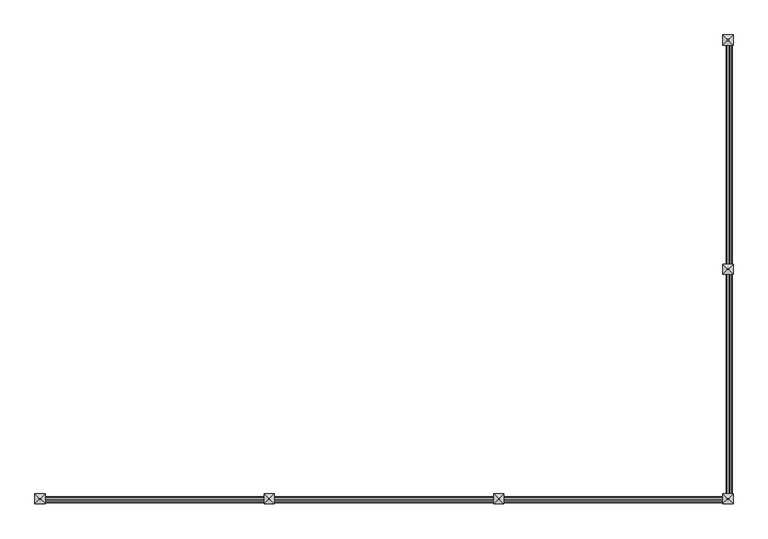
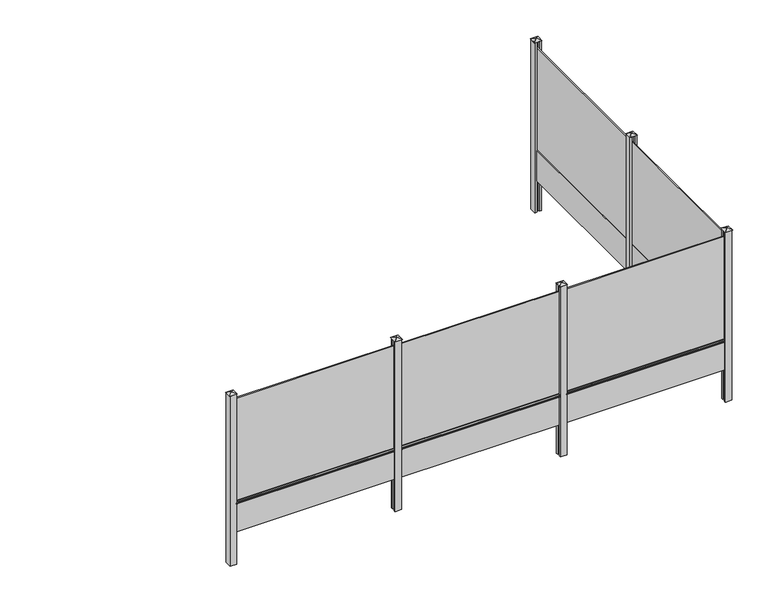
"""IFC4 building model written with IfcOpenShell, lengths in millimetres: railing geometry, Mehat - Railing - Plaque de Soubassement - Classique pour clôture rigide - 247.5x50x4 cm."""

import ifcopenshell
import ifcopenshell.guid

model = None  # the IFC model being written
_history = None  # IfcOwnerHistory: only IFC2X3 demands one
_inside = {}  # id of a spatial element -> (the spatial element, [elements in it])
_under = {}  # id of a project, library or spatial element -> (it, [spatial elements below it])
_declared = {}  # id of a project -> (the project, [libraries it declares])
_typed = {}  # id of a type object -> (the type object, [elements of that type])
_made_of = {}  # id of a material, layer set ... -> (it, [elements and type objects made of it])


def new_model(schema):
    """Start an empty IFC model of exactly this schema.

    Asked for "IFC4X3", IfcOpenShell would pick the latest addendum, in which some entities
    have other attributes; the version numbers below select the first issue.
    IFC2X3 requires an IfcOwnerHistory on every rooted entity: one is made here for all.
    """
    global model, _history
    if schema == "IFC4X3":
        model = ifcopenshell.file(schema_version=(4, 3, 0, 0))
    else:
        model = ifcopenshell.file(schema=schema)
    _inside.clear()
    _under.clear()
    _declared.clear()
    _typed.clear()
    _made_of.clear()
    _history = None
    if model.schema == "IFC2X3":
        org = make("IfcOrganization", Name="unknown")
        user = make(
            "IfcPersonAndOrganization",
            ThePerson=make("IfcPerson", FamilyName="unknown"),
            TheOrganization=org,
        )
        app = make(
            "IfcApplication",
            ApplicationDeveloper=org,
            Version="unknown",
            ApplicationFullName="unknown",
            ApplicationIdentifier="unknown",
        )
        _history = make(
            "IfcOwnerHistory",
            OwningUser=user,
            OwningApplication=app,
            ChangeAction="ADDED",
            CreationDate=0,
        )
    return model


def make(cls, **values):
    """One entity of the class cls with the attributes given. An attribute that is None is left unset."""
    return model.create_entity(
        cls, **{name: value for name, value in values.items() if value is not None}
    )


def rooted(cls, **values):
    """An entity with a GlobalId (a new one), such as an element, a storey or a relation."""
    return make(cls, GlobalId=ifcopenshell.guid.new(), OwnerHistory=_history, **values)


def si_unit(unit_type, name, prefix=None):
    """IfcSIUnit, for example si_unit("LENGTHUNIT", "METRE", prefix="MILLI")."""
    return make("IfcSIUnit", UnitType=unit_type, Prefix=prefix, Name=name)


def assignment(units):
    """IfcUnitAssignment: the units of a project."""
    return None if units is None else make("IfcUnitAssignment", Units=units)


def point(xyz):
    """IfcCartesianPoint."""
    return None if xyz is None else make("IfcCartesianPoint", Coordinates=xyz)


def direction(xyz):
    """IfcDirection."""
    return None if xyz is None else make("IfcDirection", DirectionRatios=xyz)


def frame(location, z_axis=None, x_axis=None):
    """IfcAxis2Placement3D, a coordinate frame: its origin and axes. An axis left out is left unset."""
    return make(
        "IfcAxis2Placement3D",
        Location=point(location),
        Axis=direction(z_axis),
        RefDirection=direction(x_axis),
    )


def frame_2d(location, x_axis=None):
    """IfcAxis2Placement2D, a coordinate frame in the plane: its origin and x axis."""
    return make(
        "IfcAxis2Placement2D", Location=point(location), RefDirection=direction(x_axis)
    )


def origin():
    """The frame at (0, 0, 0) with its axes left unset."""
    return frame((0.0, 0.0, 0.0))


def origin_with_axes():
    """The frame at (0, 0, 0) with the z axis (0, 0, 1) and the x axis (1, 0, 0) written out."""
    return frame((0.0, 0.0, 0.0), z_axis=(0.0, 0.0, 1.0), x_axis=(1.0, 0.0, 0.0))


def place(relative_to, where):
    """IfcLocalPlacement: puts the frame where relative to a parent placement (None: the world)."""
    return make(
        "IfcLocalPlacement", PlacementRelTo=relative_to, RelativePlacement=where
    )


def context(
    kind, dimensions, precision=None, world=None, true_north=None, identifier=None
):
    """IfcGeometricRepresentationContext, for example the 3D "Model" context."""
    return make(
        "IfcGeometricRepresentationContext",
        ContextIdentifier=identifier,
        ContextType=kind,
        CoordinateSpaceDimension=dimensions,
        Precision=precision,
        WorldCoordinateSystem=world,
        TrueNorth=true_north,
    )


def project(units=None, contexts=None):
    """IfcProject with its units and contexts."""
    return rooted(
        "IfcProject",
        Name="project",
        RepresentationContexts=contexts,
        UnitsInContext=assignment(units),
    )


def spatial(cls, under=None, at=None, **own):
    """A site, building, storey or space (cls), placed at a placement, below another one or the project."""
    s = rooted(cls, ObjectPlacement=at, **own)
    if under is not None:
        _under.setdefault(under.id(), (under, []))[1].append(s)
    return s


def polyline(points):
    """IfcPolyline through the points."""
    return make("IfcPolyline", Points=[point(p) for p in points])


def circle_curve(where, radius):
    """IfcCircle in the frame where."""
    return make("IfcCircle", Position=where, Radius=radius)


def trimmed(basis, trim1, trim2, sense, master):
    """IfcTrimmedCurve: the piece of a basis curve between two trims."""
    return make(
        "IfcTrimmedCurve",
        BasisCurve=basis,
        Trim1=trim1,
        Trim2=trim2,
        SenseAgreement=sense,
        MasterRepresentation=master,
    )


def segment(curve, same_sense, transition):
    """IfcCompositeCurveSegment."""
    return make(
        "IfcCompositeCurveSegment",
        Transition=transition,
        SameSense=same_sense,
        ParentCurve=curve,
    )


def composite_curve(segments, self_intersect=None):
    """IfcCompositeCurve: segments joined end to end."""
    return make("IfcCompositeCurve", Segments=segments, SelfIntersect=self_intersect)


def outline(outer, holes=None, kind="AREA"):
    """IfcArbitraryClosedProfileDef: a profile drawn as a closed curve; with holes, ...WithVoids."""
    if holes is None:
        return make("IfcArbitraryClosedProfileDef", ProfileType=kind, OuterCurve=outer)
    return make(
        "IfcArbitraryProfileDefWithVoids",
        ProfileType=kind,
        OuterCurve=outer,
        InnerCurves=holes,
    )


def extrude(swept, where, along, depth):
    """IfcExtrudedAreaSolid: the profile swept, set in the frame where, extruded along a direction by depth."""
    return make(
        "IfcExtrudedAreaSolid",
        SweptArea=swept,
        Position=where,
        ExtrudedDirection=direction(along),
        Depth=depth,
    )


def faces_of(points, faces, orient=None, outer=None):
    """IfcFace entities. A face is a list of loops; a loop is a list of indices into points, from 0.

    orient and outer hold one flag for each loop. By default every Orientation is true, the
    first loop of a face is its IfcFaceOuterBound and the others are IfcFaceBound.
    """
    made = []
    for i, loops in enumerate(faces):
        bounds = []
        for j, loop in enumerate(loops):
            is_outer = j == 0 if outer is None else outer[i][j]
            bounds.append(
                make(
                    "IfcFaceOuterBound" if is_outer else "IfcFaceBound",
                    Bound=make("IfcPolyLoop", Polygon=[points[k] for k in loop]),
                    Orientation=True if orient is None else orient[i][j],
                )
            )
        made.append(make("IfcFace", Bounds=bounds))
    return made


def faceted_brep(points, faces, orient=None, outer=None, voids=None):
    """IfcFacetedBrep: a solid bounded by flat faces; with voids (closed shells), ...WithVoids."""
    shared = [point(p) for p in points]
    hull = make("IfcClosedShell", CfsFaces=faces_of(shared, faces, orient, outer))
    if voids is None:
        return make("IfcFacetedBrep", Outer=hull)
    return make(
        "IfcFacetedBrepWithVoids",
        Outer=hull,
        Voids=[
            make(cls, CfsFaces=faces_of(shared, fs, o, b)) for cls, fs, o, b in voids
        ],
    )


def shape(context_of_items, identifier, shape_type, items):
    """IfcShapeRepresentation: the items that make up one representation, for example the "Body"."""
    return make(
        "IfcShapeRepresentation",
        ContextOfItems=context_of_items,
        RepresentationIdentifier=identifier,
        RepresentationType=shape_type,
        Items=items,
    )


def source(mapping_origin, context_of_items, identifier, shape_type, items):
    """IfcRepresentationMap: a shape defined once, which mapped items show again and again."""
    return make(
        "IfcRepresentationMap",
        MappingOrigin=mapping_origin,
        MappedRepresentation=shape(context_of_items, identifier, shape_type, items),
    )


def transform(
    local_origin,
    x_axis=None,
    y_axis=None,
    z_axis=None,
    scale=None,
    scale2=None,
    scale3=None,
    uniform=True,
):
    """IfcCartesianTransformationOperator3D, or its non-uniform kind. x_axis, y_axis, z_axis: its Axis1, 2, 3."""
    if uniform:
        return make(
            "IfcCartesianTransformationOperator3D",
            Axis1=direction(x_axis),
            Axis2=direction(y_axis),
            LocalOrigin=point(local_origin),
            Scale=scale,
            Axis3=direction(z_axis),
        )
    return make(
        "IfcCartesianTransformationOperator3DnonUniform",
        Axis1=direction(x_axis),
        Axis2=direction(y_axis),
        LocalOrigin=point(local_origin),
        Scale=scale,
        Axis3=direction(z_axis),
        Scale2=scale2,
        Scale3=scale3,
    )


def mapped(mapping_source, mapping_target):
    """IfcMappedItem: shows the shape of a source again, moved by a transform."""
    return make(
        "IfcMappedItem", MappingSource=mapping_source, MappingTarget=mapping_target
    )


def made_of(thing, what):
    """Note that an element or type object is made of a material, layer set ...; save() writes the relation."""
    if what is not None:
        _made_of.setdefault(what.id(), (what, []))[1].append(thing)
    return thing


def element(
    cls,
    number,
    at=None,
    inside=None,
    cuts=None,
    type_object=None,
    material=None,
    context=None,
    identifier="Body",
    shape_type=None,
    held_by="IfcProductDefinitionShape",
    body=None,
    shapes=None,
    **own,
):
    """One element of the class cls, such as IfcWall. Its Tag is "e" and its number.

    at: its placement. inside: the storey or other place that contains it. cuts: it is an
    opening in that element (IfcRelVoidsElement). A single representation is given by context,
    identifier, shape_type and body (its items); several are given by shapes. held_by: the class
    of the entity that holds the representations. save() writes the other relations.
    """
    e = rooted(cls, Tag="e%d" % number, ObjectPlacement=at, **own)
    if body is not None:
        shapes = [shape(context, identifier, shape_type, body)]
    if shapes is not None:
        e.Representation = make(held_by, Representations=shapes)
    if inside is not None:
        _inside.setdefault(inside.id(), (inside, []))[1].append(e)
    if cuts is not None:
        rooted(
            "IfcRelVoidsElement", RelatingBuildingElement=cuts, RelatedOpeningElement=e
        )
    if type_object is not None:
        _typed.setdefault(type_object.id(), (type_object, []))[1].append(e)
    return made_of(e, material)


def aggregate(whole, parts):
    """IfcRelAggregates: a whole, such as a stair, and the parts it consists of."""
    return rooted("IfcRelAggregates", RelatingObject=whole, RelatedObjects=parts)


def save(model, path):
    """Write the relations noted so far, then the file.

    IfcRelAggregates (storeys below a building ...), IfcRelContainedInSpatialStructure (elements
    in a storey), IfcRelDefinesByType, IfcRelAssociatesMaterial and IfcRelDeclares: one each for
    every whole, place, type object, material and project.
    """
    for whole, parts in _under.values():
        aggregate(whole, parts)
    for where, things in _inside.values():
        rooted(
            "IfcRelContainedInSpatialStructure",
            RelatedElements=things,
            RelatingStructure=where,
        )
    for kind, things in _typed.values():
        rooted("IfcRelDefinesByType", RelatedObjects=things, RelatingType=kind)
    for what, things in _made_of.values():
        rooted("IfcRelAssociatesMaterial", RelatedObjects=things, RelatingMaterial=what)
    for by, libraries in _declared.values():
        rooted("IfcRelDeclares", RelatingContext=by, RelatedDefinitions=libraries)
    model.write(path)


def railing_f03016a0(model_context):
    return source(origin(), model_context, "Body", "SolidModel", [
        extrude(outline(polyline([(37896.2516516, -10852.4943936), (37879.2516516, -10852.4943936), (37879.2516516, -8377.4943936), (37896.2516516, -8377.4943936), (37896.2516516, -10852.4943936)])), frame((0.0, 0.0, 500.0), z_axis=(0.0, 0.0, 1.0), x_axis=(1.0, 0.0, 0.0)), (0.0, 0.0, 1.0), 1650.0),
        extrude(outline(polyline([(37907.7516516, -10852.4943936), (37867.7516516, -10852.4943936), (37867.7516516, -8377.4943936), (37907.7516516, -8377.4943936), (37907.7516516, -10852.4943936)])), origin_with_axes(), (0.0, 0.0, 1.0), 500.0),
        extrude(outline(composite_curve([segment(polyline([(460.0, 37907.7516516), (467.1937129, 37929.3327905)]), True, "CONTINUOUS"), segment(trimmed(circle_curve(frame_2d((471.9371294, 37927.7516516)), 5.0), [point((467.1937129, 37929.3327905))], [point((471.9371294, 37932.7516516))], False, "CARTESIAN"), True, "CONTINUOUS"), segment(polyline([(471.9371294, 37932.7516516), (488.0628706, 37932.7516516)]), True, "CONTINUOUS"), segment(trimmed(circle_curve(frame_2d((488.0628706, 37927.7516516)), 5.0), [point((488.0628706, 37932.7516516))], [point((492.8062871, 37929.3327905))], False, "CARTESIAN"), True, "CONTINUOUS"), segment(polyline([(492.8062871, 37929.3327905), (500.0, 37907.7516516), (460.0, 37907.7516516)]), True, "CONTINUOUS")], self_intersect=False)), frame((0.0, -10827.4943936, 0.0), z_axis=(0.0, 1.0, 0.0), x_axis=(0.0, 0.0, 1.0)), (0.0, 0.0, 1.0), 2425.0),
        extrude(outline(polyline([(37937.7516516, -10927.4943936), (37907.7516516, -10927.4943936), (37907.7516516, -10902.4943936), (37867.7516516, -10902.4943936), (37867.7516516, -10927.4943936), (37837.7516516, -10927.4943936), (37837.7516516, -10827.4943936), (37867.7516516, -10827.4943936), (37867.7516516, -10852.4943936), (37907.7516516, -10852.4943936), (37907.7516516, -10827.4943936), (37937.7516516, -10827.4943936), (37937.7516516, -10927.4943936)])), frame((0.0, 0.0, -500.0), z_axis=(0.0, 0.0, 1.0), x_axis=(1.0, 0.0, 0.0)), (0.0, 0.0, 1.0), 2750.0),
        faceted_brep([(37881.3471055, -10871.1443936, 2275.4), (37881.3471055, -10883.8443936, 2275.4), (37894.0471055, -10883.8443936, 2275.4), (37894.0471055, -10871.1443936, 2275.4), (37831.4016516, -10821.1443936, 2250.0), (37944.1016516, -10821.1443936, 2250.0), (37944.1016516, -10933.8443936, 2250.0), (37831.4016516, -10933.8443936, 2250.0)], [[[0, 1, 2, 3]], [[4, 5, 6, 7]], [[4, 0, 3, 5]], [[5, 3, 2, 6]], [[6, 2, 1, 7]], [[7, 1, 0, 4]]]),
        extrude(outline(polyline([(37896.2516516, -13377.4943936), (37879.2516516, -13377.4943936), (37879.2516516, -10902.4943936), (37896.2516516, -10902.4943936), (37896.2516516, -13377.4943936)])), frame((0.0, 0.0, 500.0), z_axis=(0.0, 0.0, 1.0), x_axis=(1.0, 0.0, 0.0)), (0.0, 0.0, 1.0), 1650.0),
        extrude(outline(polyline([(37907.7516516, -13377.4943936), (37867.7516516, -13377.4943936), (37867.7516516, -10902.4943936), (37907.7516516, -10902.4943936), (37907.7516516, -13377.4943936)])), origin_with_axes(), (0.0, 0.0, 1.0), 500.0),
        extrude(outline(composite_curve([segment(polyline([(460.0, 37907.7516516), (467.1937129, 37929.3327905)]), True, "CONTINUOUS"), segment(trimmed(circle_curve(frame_2d((471.9371294, 37927.7516516)), 5.0), [point((467.1937129, 37929.3327905))], [point((471.9371294, 37932.7516516))], False, "CARTESIAN"), True, "CONTINUOUS"), segment(polyline([(471.9371294, 37932.7516516), (488.0628706, 37932.7516516)]), True, "CONTINUOUS"), segment(trimmed(circle_curve(frame_2d((488.0628706, 37927.7516516)), 5.0), [point((488.0628706, 37932.7516516))], [point((492.8062871, 37929.3327905))], False, "CARTESIAN"), True, "CONTINUOUS"), segment(polyline([(492.8062871, 37929.3327905), (500.0, 37907.7516516), (460.0, 37907.7516516)]), True, "CONTINUOUS")], self_intersect=False)), frame((0.0, -13352.4943936, 0.0), z_axis=(0.0, 1.0, 0.0), x_axis=(0.0, 0.0, 1.0)), (0.0, 0.0, 1.0), 2425.0),
        extrude(outline(polyline([(35387.7516516, -13410.9943936), (35387.7516516, -13393.9943936), (37862.7516516, -13393.9943936), (37862.7516516, -13410.9943936), (35387.7516516, -13410.9943936)])), frame((0.0, 0.0, 500.0), z_axis=(0.0, 0.0, 1.0), x_axis=(1.0, 0.0, 0.0)), (0.0, 0.0, 1.0), 1650.0),
        extrude(outline(polyline([(35387.7516516, -13422.4943936), (35387.7516516, -13382.4943936), (37862.7516516, -13382.4943936), (37862.7516516, -13422.4943936), (35387.7516516, -13422.4943936)])), origin_with_axes(), (0.0, 0.0, 1.0), 500.0),
        extrude(outline(composite_curve([segment(polyline([(-13422.4943936, 460.0), (-13444.0755325, 467.1937129)]), True, "CONTINUOUS"), segment(trimmed(circle_curve(frame_2d((-13442.4943936, 471.9371294)), 5.0), [point((-13444.0755325, 467.1937129))], [point((-13447.4943936, 471.9371294))], False, "CARTESIAN"), True, "CONTINUOUS"), segment(polyline([(-13447.4943936, 471.9371294), (-13447.4943936, 488.0628706)]), True, "CONTINUOUS"), segment(trimmed(circle_curve(frame_2d((-13442.4943936, 488.0628706)), 5.0), [point((-13447.4943936, 488.0628706))], [point((-13444.0755325, 492.8062871))], False, "CARTESIAN"), True, "CONTINUOUS"), segment(polyline([(-13444.0755325, 492.8062871), (-13422.4943936, 500.0), (-13422.4943936, 460.0)]), True, "CONTINUOUS")], self_intersect=False)), frame((35412.7516516, 0.0, 0.0), z_axis=(1.0, 0.0, 0.0), x_axis=(0.0, 1.0, 0.0)), (0.0, 0.0, 1.0), 2425.0),
        extrude(outline(polyline([(35312.7516516, -13452.4943936), (35312.7516516, -13422.4943936), (35337.7516516, -13422.4943936), (35337.7516516, -13382.4943936), (35312.7516516, -13382.4943936), (35312.7516516, -13352.4943936), (35412.7516516, -13352.4943936), (35412.7516516, -13382.4943936), (35387.7516516, -13382.4943936), (35387.7516516, -13422.4943936), (35412.7516516, -13422.4943936), (35412.7516516, -13452.4943936), (35312.7516516, -13452.4943936)])), frame((0.0, 0.0, -500.0), z_axis=(0.0, 0.0, 1.0), x_axis=(1.0, 0.0, 0.0)), (0.0, 0.0, 1.0), 2750.0),
        faceted_brep([(35369.1016516, -13396.0898475, 2275.4), (35356.4016516, -13396.0898475, 2275.4), (35356.4016516, -13408.7898475, 2275.4), (35369.1016516, -13408.7898475, 2275.4), (35419.1016516, -13346.1443936, 2250.0), (35419.1016516, -13458.8443936, 2250.0), (35306.4016516, -13458.8443936, 2250.0), (35306.4016516, -13346.1443936, 2250.0)], [[[0, 1, 2, 3]], [[4, 5, 6, 7]], [[4, 0, 3, 5]], [[5, 3, 2, 6]], [[6, 2, 1, 7]], [[7, 1, 0, 4]]]),
        extrude(outline(polyline([(32862.7516516, -13410.9943936), (32862.7516516, -13393.9943936), (35337.7516516, -13393.9943936), (35337.7516516, -13410.9943936), (32862.7516516, -13410.9943936)])), frame((0.0, 0.0, 500.0), z_axis=(0.0, 0.0, 1.0), x_axis=(1.0, 0.0, 0.0)), (0.0, 0.0, 1.0), 1650.0),
        extrude(outline(polyline([(32862.7516516, -13422.4943936), (32862.7516516, -13382.4943936), (35337.7516516, -13382.4943936), (35337.7516516, -13422.4943936), (32862.7516516, -13422.4943936)])), origin_with_axes(), (0.0, 0.0, 1.0), 500.0),
        extrude(outline(composite_curve([segment(polyline([(-13422.4943936, 460.0), (-13444.0755325, 467.1937129)]), True, "CONTINUOUS"), segment(trimmed(circle_curve(frame_2d((-13442.4943936, 471.9371294)), 5.0), [point((-13444.0755325, 467.1937129))], [point((-13447.4943936, 471.9371294))], False, "CARTESIAN"), True, "CONTINUOUS"), segment(polyline([(-13447.4943936, 471.9371294), (-13447.4943936, 488.0628706)]), True, "CONTINUOUS"), segment(trimmed(circle_curve(frame_2d((-13442.4943936, 488.0628706)), 5.0), [point((-13447.4943936, 488.0628706))], [point((-13444.0755325, 492.8062871))], False, "CARTESIAN"), True, "CONTINUOUS"), segment(polyline([(-13444.0755325, 492.8062871), (-13422.4943936, 500.0), (-13422.4943936, 460.0)]), True, "CONTINUOUS")], self_intersect=False)), frame((32887.7516516, 0.0, 0.0), z_axis=(1.0, 0.0, 0.0), x_axis=(0.0, 1.0, 0.0)), (0.0, 0.0, 1.0), 2425.0),
        extrude(outline(polyline([(32787.7516516, -13452.4943936), (32787.7516516, -13422.4943936), (32812.7516516, -13422.4943936), (32812.7516516, -13382.4943936), (32787.7516516, -13382.4943936), (32787.7516516, -13352.4943936), (32887.7516516, -13352.4943936), (32887.7516516, -13382.4943936), (32862.7516516, -13382.4943936), (32862.7516516, -13422.4943936), (32887.7516516, -13422.4943936), (32887.7516516, -13452.4943936), (32787.7516516, -13452.4943936)])), frame((0.0, 0.0, -500.0), z_axis=(0.0, 0.0, 1.0), x_axis=(1.0, 0.0, 0.0)), (0.0, 0.0, 1.0), 2750.0),
        faceted_brep([(32844.1016516, -13396.0898475, 2275.4), (32831.4016516, -13396.0898475, 2275.4), (32831.4016516, -13408.7898475, 2275.4), (32844.1016516, -13408.7898475, 2275.4), (32894.1016516, -13346.1443936, 2250.0), (32894.1016516, -13458.8443936, 2250.0), (32781.4016516, -13458.8443936, 2250.0), (32781.4016516, -13346.1443936, 2250.0)], [[[0, 1, 2, 3]], [[4, 5, 6, 7]], [[4, 0, 3, 5]], [[5, 3, 2, 6]], [[6, 2, 1, 7]], [[7, 1, 0, 4]]]),
        extrude(outline(polyline([(30337.7516516, -13410.9943936), (30337.7516516, -13393.9943936), (32812.7516516, -13393.9943936), (32812.7516516, -13410.9943936), (30337.7516516, -13410.9943936)])), frame((0.0, 0.0, 500.0), z_axis=(0.0, 0.0, 1.0), x_axis=(1.0, 0.0, 0.0)), (0.0, 0.0, 1.0), 1650.0),
        extrude(outline(polyline([(30337.7516516, -13422.4943936), (30337.7516516, -13382.4943936), (32812.7516516, -13382.4943936), (32812.7516516, -13422.4943936), (30337.7516516, -13422.4943936)])), origin_with_axes(), (0.0, 0.0, 1.0), 500.0),
        extrude(outline(composite_curve([segment(polyline([(-13422.4943936, 460.0), (-13444.0755325, 467.1937129)]), True, "CONTINUOUS"), segment(trimmed(circle_curve(frame_2d((-13442.4943936, 471.9371294)), 5.0), [point((-13444.0755325, 467.1937129))], [point((-13447.4943936, 471.9371294))], False, "CARTESIAN"), True, "CONTINUOUS"), segment(polyline([(-13447.4943936, 471.9371294), (-13447.4943936, 488.0628706)]), True, "CONTINUOUS"), segment(trimmed(circle_curve(frame_2d((-13442.4943936, 488.0628706)), 5.0), [point((-13447.4943936, 488.0628706))], [point((-13444.0755325, 492.8062871))], False, "CARTESIAN"), True, "CONTINUOUS"), segment(polyline([(-13444.0755325, 492.8062871), (-13422.4943936, 500.0), (-13422.4943936, 460.0)]), True, "CONTINUOUS")], self_intersect=False)), frame((30362.7516516, 0.0, 0.0), z_axis=(1.0, 0.0, 0.0), x_axis=(0.0, 1.0, 0.0)), (0.0, 0.0, 1.0), 2425.0),
        extrude(outline(polyline([(37837.7516516, -13452.4943936), (37837.7516516, -13422.4943936), (37862.7516516, -13422.4943936), (37862.7516516, -13382.4943936), (37837.7516516, -13382.4943936), (37837.7516516, -13352.4943936), (37867.7516516, -13352.4943936), (37867.7516516, -13377.4943936), (37907.7516516, -13377.4943936), (37907.7516516, -13352.4943936), (37937.7516516, -13352.4943936), (37937.7516516, -13452.4943936), (37837.7516516, -13452.4943936)])), frame((0.0, 0.0, -500.0), z_axis=(0.0, 0.0, 1.0), x_axis=(1.0, 0.0, 0.0)), (0.0, 0.0, 1.0), 2750.0),
        faceted_brep([(37894.1016516, -13396.0898475, 2275.4), (37881.4016516, -13396.0898475, 2275.4), (37881.4016516, -13408.7898475, 2275.4), (37894.1016516, -13408.7898475, 2275.4), (37944.1016516, -13346.1443936, 2250.0), (37944.1016516, -13458.8443936, 2250.0), (37831.4016516, -13458.8443936, 2250.0), (37831.4016516, -13346.1443936, 2250.0)], [[[0, 1, 2, 3]], [[4, 5, 6, 7]], [[4, 0, 3, 5]], [[5, 3, 2, 6]], [[6, 2, 1, 7]], [[7, 1, 0, 4]]]),
        extrude(outline(polyline([(37937.7516516, -8402.4943936), (37907.7516516, -8402.4943936), (37907.7516516, -8377.4943936), (37867.7516516, -8377.4943936), (37867.7516516, -8402.4943936), (37837.7516516, -8402.4943936), (37837.7516516, -8302.4943936), (37937.7516516, -8302.4943936), (37937.7516516, -8402.4943936)])), frame((0.0, 0.0, -500.0), z_axis=(0.0, 0.0, 1.0), x_axis=(1.0, 0.0, 0.0)), (0.0, 0.0, 1.0), 2750.0),
        faceted_brep([(37881.3471055, -8346.1443936, 2275.4), (37881.3471055, -8358.8443936, 2275.4), (37894.0471055, -8358.8443936, 2275.4), (37894.0471055, -8346.1443936, 2275.4), (37831.4016516, -8296.1443936, 2250.0), (37944.1016516, -8296.1443936, 2250.0), (37944.1016516, -8408.8443936, 2250.0), (37831.4016516, -8408.8443936, 2250.0)], [[[0, 1, 2, 3]], [[4, 5, 6, 7]], [[4, 0, 3, 5]], [[5, 3, 2, 6]], [[6, 2, 1, 7]], [[7, 1, 0, 4]]]),
        extrude(outline(polyline([(30262.7516516, -13452.4943936), (30262.7516516, -13352.4943936), (30362.7516516, -13352.4943936), (30362.7516516, -13382.4943936), (30337.7516516, -13382.4943936), (30337.7516516, -13422.4943936), (30362.7516516, -13422.4943936), (30362.7516516, -13452.4943936), (30262.7516516, -13452.4943936)])), frame((0.0, 0.0, -500.0), z_axis=(0.0, 0.0, 1.0), x_axis=(1.0, 0.0, 0.0)), (0.0, 0.0, 1.0), 2750.0),
        faceted_brep([(30319.1016516, -13396.0898475, 2275.4), (30306.4016516, -13396.0898475, 2275.4), (30306.4016516, -13408.7898475, 2275.4), (30319.1016516, -13408.7898475, 2275.4), (30369.1016516, -13346.1443936, 2250.0), (30369.1016516, -13458.8443936, 2250.0), (30256.4016516, -13458.8443936, 2250.0), (30256.4016516, -13346.1443936, 2250.0)], [[[0, 1, 2, 3]], [[4, 5, 6, 7]], [[4, 0, 3, 5]], [[5, 3, 2, 6]], [[6, 2, 1, 7]], [[7, 1, 0, 4]]]),
    ])


if __name__ == "__main__":
    model = new_model("IFC4")
    model_context = context("Model", 3, world=origin())
    ifc_project = project(units=[si_unit("LENGTHUNIT", "METRE", prefix="MILLI")], contexts=[model_context])
    site = spatial("IfcSite", under=ifc_project)
    building = spatial("IfcBuilding", under=site)
    placement = place(None, origin())
    railing_shape = railing_f03016a0(model_context)
    element("IfcRailing", 1, ObjectType="Mehat - Railing - Plaque de Soubassement - Classique pour clôture rigide - 247.5x50x4 cm", at=placement, inside=building, context=model_context, shape_type="MappedRepresentation", body=[
        mapped(railing_shape, transform((0.0, 0.0, 0.0), x_axis=(1.0, 0.0, 0.0), y_axis=(0.0, 1.0, 0.0), z_axis=(0.0, 0.0, 1.0))),
    ])
    save(model, "model.ifc")
